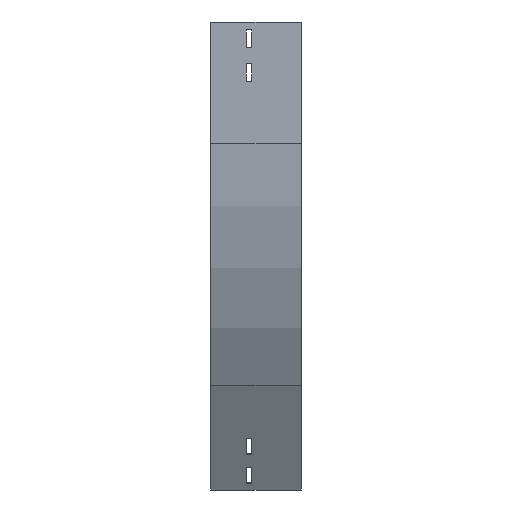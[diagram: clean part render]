
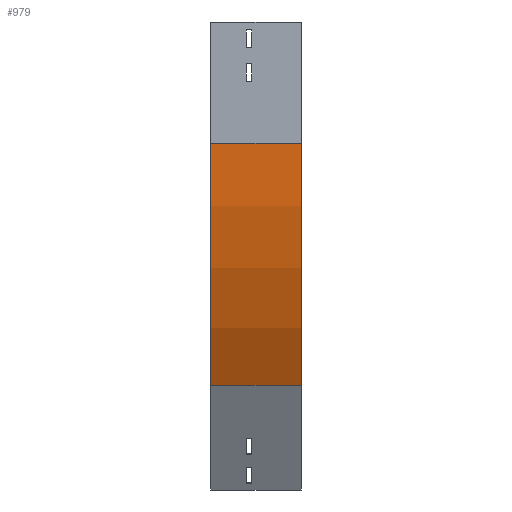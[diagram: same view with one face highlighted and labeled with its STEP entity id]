
A CAD part, left-side view. The second image highlights one B-rep face of the part: STEP entity #979.
In plain terms, the highlighted cylindrical face has radius 600 mm (diameter 1200 mm), a partial arc.
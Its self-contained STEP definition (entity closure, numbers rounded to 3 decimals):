
#1 = DIRECTION ( 'NONE',  ( 0., 0., -1. ) ) ;
#174 = CARTESIAN_POINT ( 'NONE',  ( 0., 112.5, -150. ) ) ;
#185 = LINE ( 'NONE', #1334, #2049 ) ;
#279 = CARTESIAN_POINT ( 'NONE',  ( 0., 0., -150. ) ) ;
#320 = VERTEX_POINT ( 'NONE', #3697 ) ;
#383 = EDGE_CURVE ( 'NONE', #2744, #320, #185, .T. ) ;
#557 = ORIENTED_EDGE ( 'NONE', *, *, #2597, .T. ) ;
#588 = AXIS2_PLACEMENT_3D ( 'NONE', #843, #2641, #1431 ) ;
#594 = DIRECTION ( 'NONE',  ( 0., -1., 0. ) ) ;
#843 = CARTESIAN_POINT ( 'NONE',  ( 600., 112.5, -150. ) ) ;
#887 = CARTESIAN_POINT ( 'NONE',  ( 600., 0., -150. ) ) ;
#970 = ORIENTED_EDGE ( 'NONE', *, *, #2361, .F. ) ;
#979 = ADVANCED_FACE ( 'NONE', ( #2650 ), #2099, .T. ) ;
#1147 = AXIS2_PLACEMENT_3D ( 'NONE', #887, #594, #1 ) ;
#1195 = CARTESIAN_POINT ( 'NONE',  ( 80.385, 112.5, -450. ) ) ;
#1196 = ORIENTED_EDGE ( 'NONE', *, *, #383, .T. ) ;
#1237 = VERTEX_POINT ( 'NONE', #3153 ) ;
#1334 = CARTESIAN_POINT ( 'NONE',  ( 80.385, 0., -450. ) ) ;
#1431 = DIRECTION ( 'NONE',  ( -1., 0., 0. ) ) ;
#1530 = DIRECTION ( 'NONE',  ( 0., -1., 0. ) ) ;
#1595 = VERTEX_POINT ( 'NONE', #174 ) ;
#1732 = VECTOR ( 'NONE', #3226, 1000. ) ;
#1746 = CARTESIAN_POINT ( 'NONE',  ( 600., 0., -150. ) ) ;
#1766 = CIRCLE ( 'NONE', #588, 600. ) ;
#1867 = LINE ( 'NONE', #279, #1732 ) ;
#1974 = DIRECTION ( 'NONE',  ( -1., 0., 0. ) ) ;
#2006 = AXIS2_PLACEMENT_3D ( 'NONE', #1746, #2924, #1974 ) ;
#2009 = CIRCLE ( 'NONE', #2006, 600. ) ;
#2049 = VECTOR ( 'NONE', #1530, 1000. ) ;
#2099 = CYLINDRICAL_SURFACE ( 'NONE', #1147, 600. ) ;
#2145 = ORIENTED_EDGE ( 'NONE', *, *, #2665, .F. ) ;
#2361 = EDGE_CURVE ( 'NONE', #1595, #1237, #1867, .T. ) ;
#2597 = EDGE_CURVE ( 'NONE', #1595, #2744, #1766, .T. ) ;
#2641 = DIRECTION ( 'NONE',  ( 0., -1., 0. ) ) ;
#2650 = FACE_OUTER_BOUND ( 'NONE', #3254, .T. ) ;
#2665 = EDGE_CURVE ( 'NONE', #1237, #320, #2009, .T. ) ;
#2744 = VERTEX_POINT ( 'NONE', #1195 ) ;
#2924 = DIRECTION ( 'NONE',  ( 0., -1., 0. ) ) ;
#3153 = CARTESIAN_POINT ( 'NONE',  ( 0., 0., -150. ) ) ;
#3226 = DIRECTION ( 'NONE',  ( 0., -1., 0. ) ) ;
#3254 = EDGE_LOOP ( 'NONE', ( #2145, #970, #557, #1196 ) ) ;
#3697 = CARTESIAN_POINT ( 'NONE',  ( 80.385, 0., -450. ) ) ;
